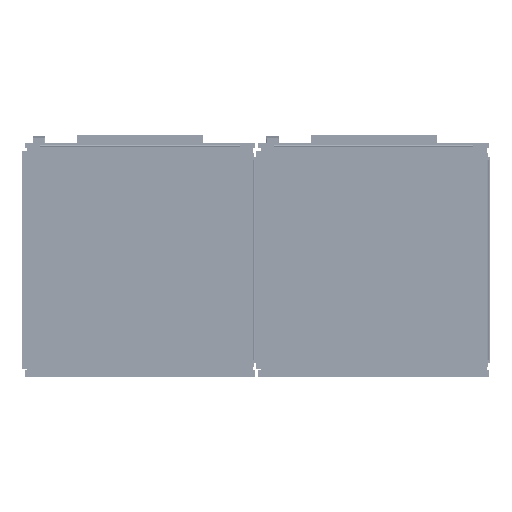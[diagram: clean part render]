
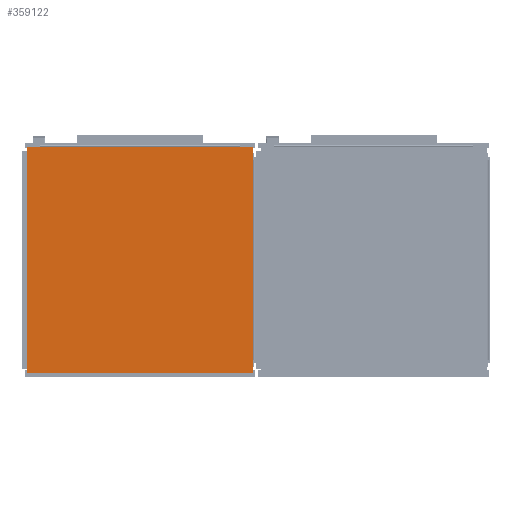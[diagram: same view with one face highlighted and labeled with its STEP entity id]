
A CAD part, front view. The second image highlights one B-rep face of the part: STEP entity #359122.
In plain terms, the highlighted planar face has unit normal (0, -1, 0) as drawn and (0, 0, -1) by its records, which use the part's own axes.
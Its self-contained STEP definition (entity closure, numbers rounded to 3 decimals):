
#359043=DIRECTION('',(0.,-1.,0.));
#359044=VECTOR('',#359043,580.);
#359045=CARTESIAN_POINT('',(-290.,290.,-50.));
#359046=LINE('',#359045,#359044);
#359047=DIRECTION('',(1.,0.,0.));
#359048=VECTOR('',#359047,580.);
#359049=CARTESIAN_POINT('',(-290.,-290.,-50.));
#359050=LINE('',#359049,#359048);
#359051=DIRECTION('',(0.,1.,0.));
#359052=VECTOR('',#359051,580.);
#359053=CARTESIAN_POINT('',(290.,-290.,-50.));
#359054=LINE('',#359053,#359052);
#359055=DIRECTION('',(-1.,0.,0.));
#359056=VECTOR('',#359055,580.);
#359057=CARTESIAN_POINT('',(290.,290.,-50.));
#359058=LINE('',#359057,#359056);
#359091=CARTESIAN_POINT('',(-290.,290.,-50.));
#359092=CARTESIAN_POINT('',(-290.,-290.,-50.));
#359093=VERTEX_POINT('',#359091);
#359094=VERTEX_POINT('',#359092);
#359095=CARTESIAN_POINT('',(290.,-290.,-50.));
#359096=VERTEX_POINT('',#359095);
#359097=CARTESIAN_POINT('',(290.,290.,-50.));
#359098=VERTEX_POINT('',#359097);
#359107=CARTESIAN_POINT('',(0.,0.,-50.));
#359108=DIRECTION('',(0.,0.,1.));
#359109=DIRECTION('',(1.,0.,0.));
#359110=AXIS2_PLACEMENT_3D('',#359107,#359108,#359109);
#359111=PLANE('',#359110);
#359113=ORIENTED_EDGE('',*,*,#359112,.T.);
#359115=ORIENTED_EDGE('',*,*,#359114,.T.);
#359117=ORIENTED_EDGE('',*,*,#359116,.T.);
#359119=ORIENTED_EDGE('',*,*,#359118,.T.);
#359120=EDGE_LOOP('',(#359113,#359115,#359117,#359119));
#359121=FACE_OUTER_BOUND('',#359120,.F.);
#359122=ADVANCED_FACE('',(#359121),#359111,.F.);
#359112=EDGE_CURVE('',#359093,#359094,#359046,.T.);
#359114=EDGE_CURVE('',#359094,#359096,#359050,.T.);
#359116=EDGE_CURVE('',#359096,#359098,#359054,.T.);
#359118=EDGE_CURVE('',#359098,#359093,#359058,.T.);
